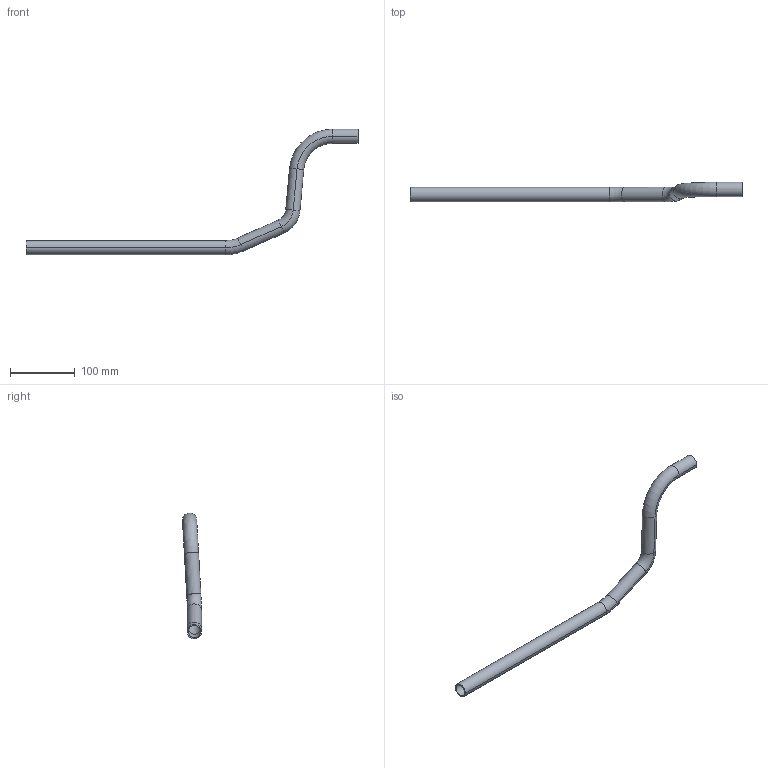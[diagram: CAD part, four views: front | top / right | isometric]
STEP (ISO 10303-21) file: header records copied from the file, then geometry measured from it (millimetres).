
FILE_DESCRIPTION(('CATIA V5 STEP Exchange','CAx-IF Rec.Pracs.--- Model Styling and Organization---1.2---2011-12-15'),'2;1');
FILE_NAME('c:\aplikace\smarteam\Temp\DO584732.step','2016-07-11T09:10:27+00:00',('none'),('none'),'CATIA Version 5 Release 21 SP 6 (IN-10)','CATIA V5 STEP AP214','none');
FILE_SCHEMA(('AUTOMOTIVE_DESIGN { 1 0 10303 214 1 1 1 1 }'));
Length unit declared in the file: millimetre
Products named in the file (1): DO584732, TRUBKA T3
Bounding box: 512.17 x 29.49 x 193.92 mm (x, y, z)
Volume: 59713.8 mm3; surface area: 79811.6 mm2
Topology: 1 solids, 1 shells, 30 faces, 60 edges, 32 vertices
Faces by surface type: cylinder 16, torus 12, plane 2
Entity records: 687 total; most frequent: ORIENTED_EDGE 120, CARTESIAN_POINT 109, DIRECTION 92, AXIS2_PLACEMENT_3D 61, EDGE_CURVE 60, CIRCLE 44, EDGE_LOOP 32, VERTEX_POINT 32
